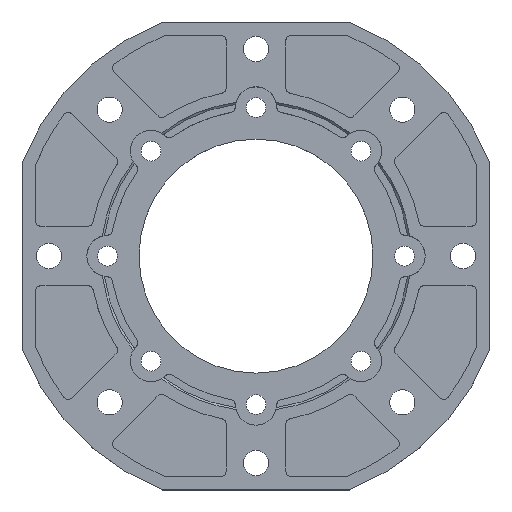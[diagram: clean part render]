
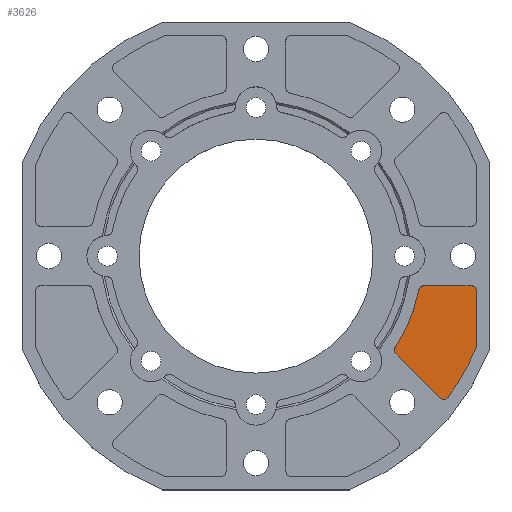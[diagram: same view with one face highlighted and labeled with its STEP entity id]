
A CAD part, top view. The second image highlights one B-rep face of the part: STEP entity #3626.
In plain terms, the highlighted planar face has unit normal (0, 0, 1).
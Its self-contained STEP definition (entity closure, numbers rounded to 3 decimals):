
#2150 = PLANE ( 'NONE',  #5043 ) ;
#2151 = CARTESIAN_POINT ( 'NONE',  ( 119.5, -19.5, -7.5 ) ) ;
#2152 = DIRECTION ( 'NONE',  ( 0., 0., -1. ) ) ;
#2153 = DIRECTION ( 'NONE',  ( -1., 0., 0. ) ) ;
#2232 = CARTESIAN_POINT ( 'NONE',  ( 104.315, -76.738, -7.5 ) ) ;
#2233 = DIRECTION ( 'NONE',  ( 0., 0., 1. ) ) ;
#2234 = DIRECTION ( 'NONE',  ( -1., 0., 0. ) ) ;
#2235 = CARTESIAN_POINT ( 'NONE',  ( 0., 0., -7.5 ) ) ;
#2239 = DIRECTION ( 'NONE',  ( 0., 0., 1. ) ) ;
#2240 = DIRECTION ( 'NONE',  ( 1., 0., 0. ) ) ;
#2241 = CARTESIAN_POINT ( 'NONE',  ( 119.5, -49.9, -7.5 ) ) ;
#2245 = DIRECTION ( 'NONE',  ( 0., 0., 1. ) ) ;
#2246 = DIRECTION ( 'NONE',  ( 1., 0., 0. ) ) ;
#2247 = CARTESIAN_POINT ( 'NONE',  ( 119.5, -19.5, -7.5 ) ) ;
#2251 = LINE ( 'NONE', #2252, #4978 ) ;
#2252 = CARTESIAN_POINT ( 'NONE',  ( 122.5, -49.9, -7.5 ) ) ;
#2253 = DIRECTION ( 'NONE',  ( 0., 1., 0. ) ) ;
#2257 = DIRECTION ( 'NONE',  ( 0., 0., 1. ) ) ;
#2258 = DIRECTION ( 'NONE',  ( -1., 0., 0. ) ) ;
#3148 = VECTOR ( 'NONE', #9094, 1000. ) ;
#3154 = AXIS2_PLACEMENT_3D ( 'NONE', #9082, #9086, #9087 ) ;
#3156 = AXIS2_PLACEMENT_3D ( 'NONE', #9076, #9080, #9081 ) ;
#3159 = AXIS2_PLACEMENT_3D ( 'NONE', #9064, #9074, #9075 ) ;
#3160 = VECTOR ( 'NONE', #9070, 1000. ) ;
#3626 = ADVANCED_FACE ( 'NONE', ( #5048 ), #2150, .F. ) ;
#3650 = EDGE_CURVE ( 'NONE', #7947, #7946, #5669, .T. ) ;
#3652 = EDGE_CURVE ( 'NONE', #7946, #7945, #5670, .T. ) ;
#3654 = EDGE_CURVE ( 'NONE', #7945, #7944, #5667, .T. ) ;
#3656 = EDGE_CURVE ( 'NONE', #7944, #7943, #2251, .T. ) ;
#3658 = EDGE_CURVE ( 'NONE', #7943, #7942, #5668, .T. ) ;
#3777 = ORIENTED_EDGE ( 'NONE', *, *, #3650, .T. ) ;
#3779 = ORIENTED_EDGE ( 'NONE', *, *, #8616, .T. ) ;
#3780 = ORIENTED_EDGE ( 'NONE', *, *, #8618, .T. ) ;
#3781 = ORIENTED_EDGE ( 'NONE', *, *, #8620, .T. ) ;
#3782 = ORIENTED_EDGE ( 'NONE', *, *, #3652, .T. ) ;
#3783 = ORIENTED_EDGE ( 'NONE', *, *, #3654, .T. ) ;
#3784 = ORIENTED_EDGE ( 'NONE', *, *, #3656, .T. ) ;
#3785 = ORIENTED_EDGE ( 'NONE', *, *, #3658, .T. ) ;
#3786 = ORIENTED_EDGE ( 'NONE', *, *, #8612, .T. ) ;
#3787 = ORIENTED_EDGE ( 'NONE', *, *, #8614, .T. ) ;
#3956 = EDGE_LOOP ( 'NONE', ( #3779, #3780, #3781, #3777, #3782, #3783, #3784, #3785, #3786, #3787 ) ) ;
#4695 = CIRCLE ( 'NONE', #3159, 3. ) ;
#4696 = CIRCLE ( 'NONE', #3156, 92.5 ) ;
#4697 = CIRCLE ( 'NONE', #3154, 3. ) ;
#4977 = AXIS2_PLACEMENT_3D ( 'NONE', #2247, #2257, #2258 ) ;
#4978 = VECTOR ( 'NONE', #2253, 1000. ) ;
#4981 = AXIS2_PLACEMENT_3D ( 'NONE', #2241, #2245, #2246 ) ;
#4983 = AXIS2_PLACEMENT_3D ( 'NONE', #2235, #2239, #2240 ) ;
#4984 = AXIS2_PLACEMENT_3D ( 'NONE', #2232, #2233, #2234 ) ;
#5043 = AXIS2_PLACEMENT_3D ( 'NONE', #2151, #2152, #2153 ) ;
#5048 = FACE_OUTER_BOUND ( 'NONE', #3956, .T. ) ;
#5667 = CIRCLE ( 'NONE', #4981, 3. ) ;
#5668 = CIRCLE ( 'NONE', #4977, 3. ) ;
#5669 = CIRCLE ( 'NONE', #4984, 3. ) ;
#5670 = CIRCLE ( 'NONE', #4983, 132.5 ) ;
#7942 = VERTEX_POINT ( 'NONE', #10660 ) ;
#7943 = VERTEX_POINT ( 'NONE', #10661 ) ;
#7944 = VERTEX_POINT ( 'NONE', #10662 ) ;
#7945 = VERTEX_POINT ( 'NONE', #10663 ) ;
#7946 = VERTEX_POINT ( 'NONE', #10664 ) ;
#7947 = VERTEX_POINT ( 'NONE', #10665 ) ;
#7948 = VERTEX_POINT ( 'NONE', #10666 ) ;
#7949 = VERTEX_POINT ( 'NONE', #10667 ) ;
#7950 = VERTEX_POINT ( 'NONE', #10668 ) ;
#7951 = VERTEX_POINT ( 'NONE', #10669 ) ;
#8612 = EDGE_CURVE ( 'NONE', #7942, #7951, #9068, .T. ) ;
#8614 = EDGE_CURVE ( 'NONE', #7951, #7950, #4695, .T. ) ;
#8616 = EDGE_CURVE ( 'NONE', #7950, #7949, #4696, .T. ) ;
#8618 = EDGE_CURVE ( 'NONE', #7949, #7948, #4697, .T. ) ;
#8620 = EDGE_CURVE ( 'NONE', #7948, #7947, #9092, .T. ) ;
#9064 = CARTESIAN_POINT ( 'NONE',  ( 93.488, -19.5, -7.5 ) ) ;
#9068 = LINE ( 'NONE', #9069, #3160 ) ;
#9069 = CARTESIAN_POINT ( 'NONE',  ( 119.5, -16.5, -7.5 ) ) ;
#9070 = DIRECTION ( 'NONE',  ( -1., 0., 0. ) ) ;
#9074 = DIRECTION ( 'NONE',  ( 0., 0., 1. ) ) ;
#9075 = DIRECTION ( 'NONE',  ( 1., 0., 0. ) ) ;
#9076 = CARTESIAN_POINT ( 'NONE',  ( 0., 0., -7.5 ) ) ;
#9080 = DIRECTION ( 'NONE',  ( 0., 0., -1. ) ) ;
#9081 = DIRECTION ( 'NONE',  ( 1., 0., 0. ) ) ;
#9082 = CARTESIAN_POINT ( 'NONE',  ( 79.895, -52.317, -7.5 ) ) ;
#9086 = DIRECTION ( 'NONE',  ( 0., 0., 1. ) ) ;
#9087 = DIRECTION ( 'NONE',  ( -1., 0., 0. ) ) ;
#9092 = LINE ( 'NONE', #9093, #3148 ) ;
#9093 = CARTESIAN_POINT ( 'NONE',  ( 102.194, -78.859, -7.5 ) ) ;
#9094 = DIRECTION ( 'NONE',  ( 0.707, -0.707, 0. ) ) ;
#10660 = CARTESIAN_POINT ( 'NONE',  ( 119.5, -16.5, -7.5 ) ) ;
#10661 = CARTESIAN_POINT ( 'NONE',  ( 122.5, -19.5, -7.5 ) ) ;
#10662 = CARTESIAN_POINT ( 'NONE',  ( 122.5, -49.9, -7.5 ) ) ;
#10663 = CARTESIAN_POINT ( 'NONE',  ( 122.268, -51.056, -7.5 ) ) ;
#10664 = CARTESIAN_POINT ( 'NONE',  ( 106.731, -78.515, -7.5 ) ) ;
#10665 = CARTESIAN_POINT ( 'NONE',  ( 102.194, -78.859, -7.5 ) ) ;
#10666 = CARTESIAN_POINT ( 'NONE',  ( 77.773, -54.439, -7.5 ) ) ;
#10667 = CARTESIAN_POINT ( 'NONE',  ( 77.385, -50.674, -7.5 ) ) ;
#10668 = CARTESIAN_POINT ( 'NONE',  ( 90.551, -18.887, -7.5 ) ) ;
#10669 = CARTESIAN_POINT ( 'NONE',  ( 93.488, -16.5, -7.5 ) ) ;
